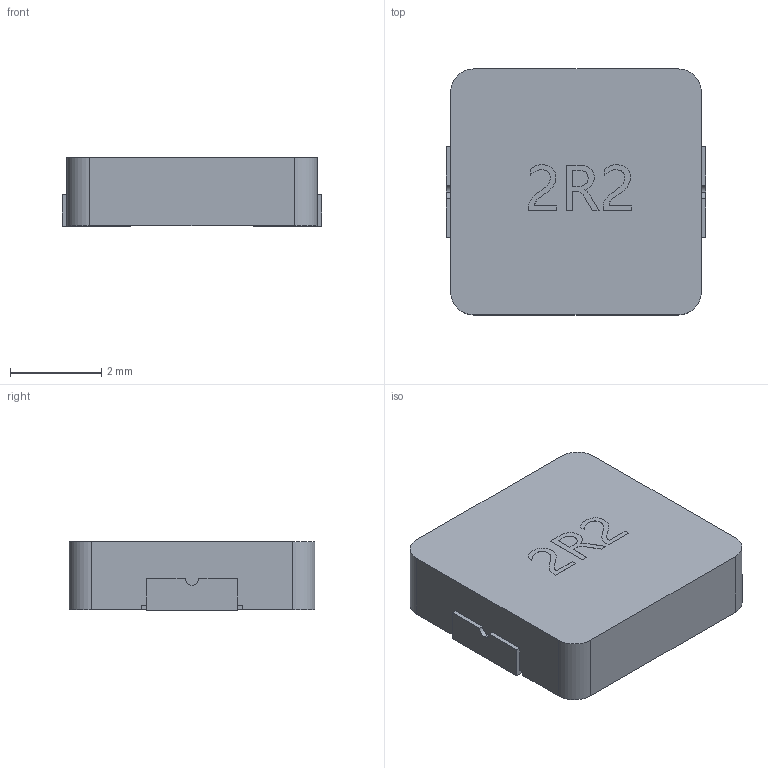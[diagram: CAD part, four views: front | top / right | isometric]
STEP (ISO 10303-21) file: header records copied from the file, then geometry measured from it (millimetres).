
FILE_DESCRIPTION (( 'STEP AP214' ), '1' );
FILE_NAME ('IND-SMD_L5.7-W5.4-H1.5.step', '2022-07-09T00:34:30', ( '' ), ( '' ), 'SwSTEP 2.0', 'SolidWorks 2020', '' );
FILE_SCHEMA (( 'AUTOMOTIVE_DESIGN' ));
Length unit declared in the file: millimetre
Products named in the file (1): IND-SMD_L5.7-W5.4-H1.5
Bounding box: 5.7 x 5.4 x 1.51 mm (x, y, z)
Volume: 44.4 mm3; surface area: 109.4 mm2
Topology: 3 solids, 3 shells, 371 faces, 1005 edges, 670 vertices
Faces by surface type: plane 229, bspline 134, cylinder 8
Entity records: 18172 total; most frequent: CARTESIAN_POINT 5597, ORIENTED_EDGE 2010, DIRECTION 1225, EDGE_CURVE 1005, LINE 717, VECTOR 717, VERTEX_POINT 670, EDGE_LOOP 401
